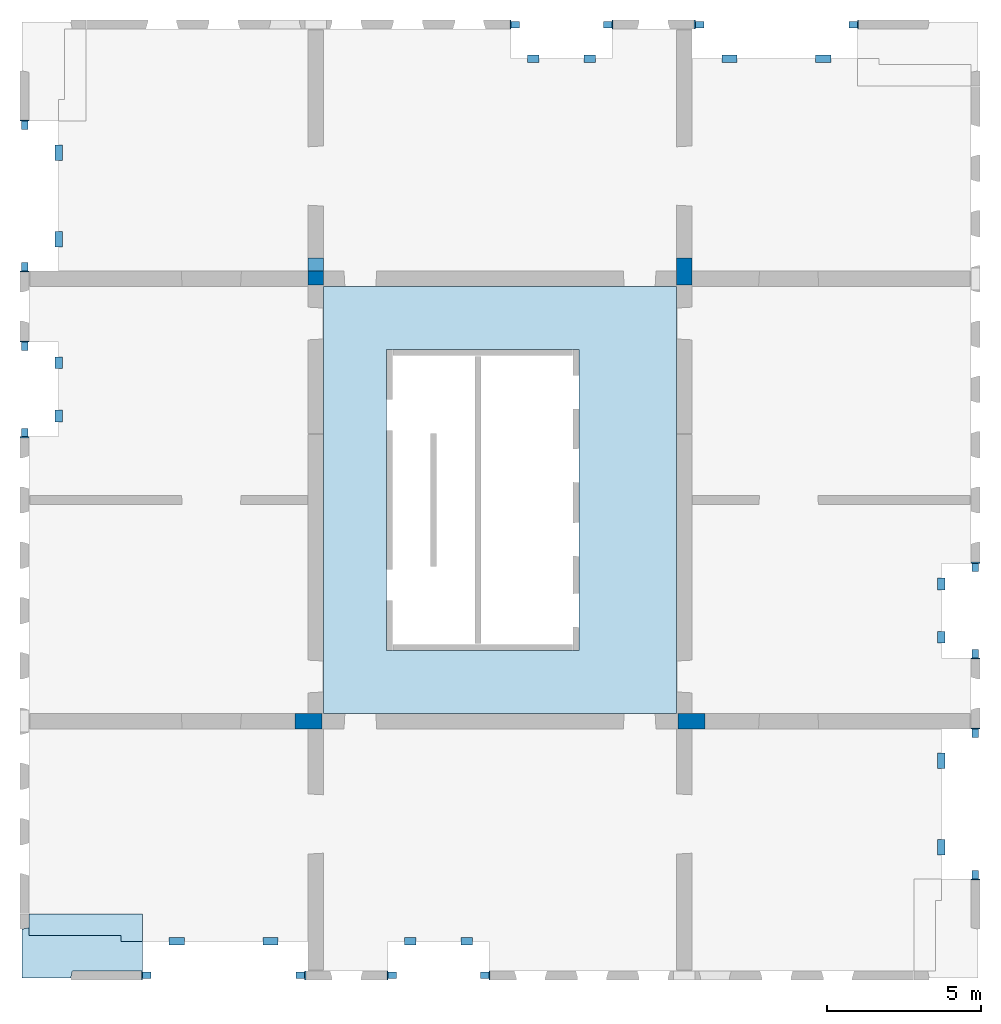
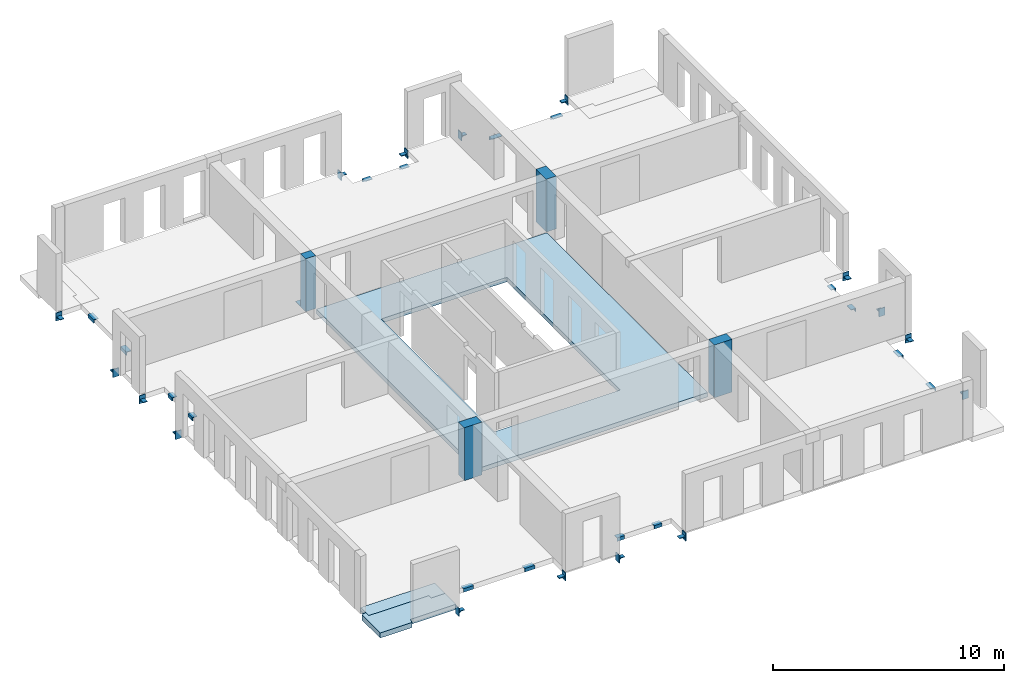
# One storey, part 1 of 4: 32 beams, 4 columns, 3 slabs, 1 opening.
"""IFC2X3 building model written with IfcOpenShell, lengths in millimetres."""

from ifc_helpers import new_model, entity, si_unit, converted_unit, derived_unit, direction, frame, frame_2d, origin, origin_2d_with_axis, place, context, subcontext, project, spatial, polyline, rectangle, outline, extrude, faceted_brep, source, transform, mapped, material, layer, layer_set, layer_usage, type_object, type_shapes, element, save


model = new_model("IFC2X3")

# Units and contexts
model_context = context("Model", 3, precision=0.01, world=origin(), true_north=direction((6.12303176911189e-17, 1.0)))
body_context = subcontext(model_context, "Body", "Model", "MODEL_VIEW")
ifc_project = project(units=[si_unit("LENGTHUNIT", "METRE", prefix="MILLI"), si_unit("AREAUNIT", "SQUARE_METRE"), si_unit("VOLUMEUNIT", "CUBIC_METRE"), converted_unit("PLANEANGLEUNIT", "DEGREE", entity("IfcRatioMeasure", 0.0174532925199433), si_unit("PLANEANGLEUNIT", "RADIAN"), dimensions=[0, 0, 0, 0, 0, 0, 0]), si_unit("MASSUNIT", "GRAM", prefix="KILO"), derived_unit("MASSDENSITYUNIT", [(si_unit("MASSUNIT", "GRAM", prefix="KILO"), 1), (si_unit("LENGTHUNIT", "METRE"), -3)]), si_unit("TIMEUNIT", "SECOND"), si_unit("FREQUENCYUNIT", "HERTZ"), si_unit("THERMODYNAMICTEMPERATUREUNIT", "DEGREE_CELSIUS"), derived_unit("THERMALTRANSMITTANCEUNIT", [(si_unit("MASSUNIT", "GRAM", prefix="KILO"), 1), (si_unit("THERMODYNAMICTEMPERATUREUNIT", "KELVIN"), -1), (si_unit("TIMEUNIT", "SECOND"), -3)]), derived_unit("VOLUMETRICFLOWRATEUNIT", [(si_unit("LENGTHUNIT", "METRE"), 3), (si_unit("TIMEUNIT", "SECOND"), -1)]), si_unit("ELECTRICCURRENTUNIT", "AMPERE"), si_unit("ELECTRICVOLTAGEUNIT", "VOLT"), si_unit("POWERUNIT", "WATT"), si_unit("FORCEUNIT", "NEWTON", prefix="KILO"), si_unit("ILLUMINANCEUNIT", "LUX"), si_unit("LUMINOUSFLUXUNIT", "LUMEN"), si_unit("LUMINOUSINTENSITYUNIT", "CANDELA"), derived_unit("USERDEFINED", [(si_unit("MASSUNIT", "GRAM", prefix="KILO"), -1), (si_unit("LENGTHUNIT", "METRE"), -2), (si_unit("TIMEUNIT", "SECOND"), 3), (si_unit("LUMINOUSFLUXUNIT", "LUMEN"), 1)]), derived_unit("LINEARVELOCITYUNIT", [(si_unit("LENGTHUNIT", "METRE"), 1), (si_unit("TIMEUNIT", "SECOND"), -1)]), si_unit("PRESSUREUNIT", "PASCAL"), derived_unit("USERDEFINED", [(si_unit("LENGTHUNIT", "METRE"), -2), (si_unit("MASSUNIT", "GRAM", prefix="KILO"), 1), (si_unit("TIMEUNIT", "SECOND"), -2)])], contexts=[model_context])

# Site, building, storey
site_placement = place(None, origin())
site = spatial("IfcSite", under=ifc_project, at=site_placement, Name="Default", CompositionType="ELEMENT")
building_placement = place(site_placement, origin())
building = spatial("IfcBuilding", under=site, at=building_placement, Name="niet gebruiken", CompositionType="ELEMENT")
storey_placement = place(building_placement, frame((0.0, 0.0, 51660.0)))
storey = spatial("IfcBuildingStorey", under=building, at=storey_placement, Name="16 zestiende verdieping", CompositionType="ELEMENT", Elevation=51660.0)

# Columns
ifc_material_1 = material(Name="NLRS_f2_beton ihwg")
column_type_1 = type_object("IfcColumnType", Name="500x880", PredefinedType="COLUMN", material=ifc_material_1)
shared_shape_1 = source(origin(), body_context, "Body", "Brep", [
    faceted_brep([(0.00354003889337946, 0.0, 2790.0), (500.003540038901, 0.0, 2790.0), (500.003540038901, 450.0, 2790.0), (0.00354003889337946, 450.0, 2790.0), (500.003540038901, 0.0, 0.0), (0.00354003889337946, 0.0, 0.0), (0.00354003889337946, 880.0, 0.0), (500.003540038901, 880.0, 0.0), (500.003540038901, 880.0, 20.0), (500.003540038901, 450.0, 20.0), (0.00354003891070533, 880.0, 20.0), (0.00354003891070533, 450.0, 20.0), (0.0, 450.0, 20.0), (500.0, 450.0, 20.0)], [[[0, 1, 2, 3]], [[4, 5, 6, 7]], [[1, 4, 7, 8, 9, 2]], [[7, 6, 10, 8]], [[6, 5, 0, 3, 11, 10]], [[1, 0, 5, 4]], [[12, 9, 8, 10]], [[13, 11, 3, 2]]]),
])
type_shapes(column_type_1, [shared_shape_1])
column_1_placement = place(storey_placement, frame((135500.0, 24500.0, -90.0)))
element("IfcColumn", 1, at=column_1_placement, inside=storey, type_object=column_type_1, material=ifc_material_1, Name="NLRS_28.11_SCO_TLB_beton kolom ihwg_gen:500x880", ObjectType="500x880", context=body_context, shape_type="MappedRepresentation", body=[
    mapped(shared_shape_1, transform((0.0, 0.0, 0.0), scale=1.0)),
])
column_type_2 = type_object("IfcColumnType", Name="500x880", PredefinedType="COLUMN", material=ifc_material_1)
shared_shape_2 = source(origin(), body_context, "Body", "SweptSolid", [
    extrude(rectangle(XDim=879.999999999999, YDim=500.000000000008, at=origin_2d_with_axis()), frame((147750.0, 24940.0, 51570.0), z_axis=(0.0, 0.0, 1.0), x_axis=(0.0, -1.0, 0.0)), (0.0, 0.0, 1.0), 2789.99999999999),
])
type_shapes(column_type_2, [shared_shape_2])
column_2_placement = place(storey_placement, frame((0.0, 0.0, -51660.0)))
element("IfcColumn", 2, at=column_2_placement, inside=storey, type_object=column_type_2, material=ifc_material_1, Name="NLRS_28.11_SCO_TLB_beton kolom ihwg_gen:500x880", ObjectType="500x880", context=body_context, shape_type="MappedRepresentation", body=[
    mapped(shared_shape_2, transform((0.0, 0.0, 0.0), scale=1.0)),
])
column_type_3 = type_object("IfcColumnType", Name="500x880", PredefinedType="COLUMN", material=ifc_material_1)
shared_shape_3 = source(origin(), body_context, "Body", "SweptSolid", [
    extrude(rectangle(XDim=500.000000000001, YDim=880.000000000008, at=origin_2d_with_axis()), frame((135510.003540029, 10300.0115507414, 51570.0), z_axis=(0.0, 0.0, 1.0), x_axis=(0.0, -1.0, 0.0)), (0.0, 0.0, 1.0), 2789.99999999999),
])
type_shapes(column_type_3, [shared_shape_3])
column_3_placement = place(storey_placement, frame((0.0, 0.0, -51660.0)))
element("IfcColumn", 3, at=column_3_placement, inside=storey, type_object=column_type_3, material=ifc_material_1, Name="NLRS_28.11_SCO_TLB_beton kolom ihwg_gen:500x880", ObjectType="500x880", context=body_context, shape_type="MappedRepresentation", body=[
    mapped(shared_shape_3, transform((0.0, 0.0, 0.0), scale=1.0)),
])
column_type_4 = type_object("IfcColumnType", Name="500x880", PredefinedType="COLUMN", material=ifc_material_1)
shared_shape_4 = source(origin(), body_context, "Body", "SweptSolid", [
    extrude(rectangle(XDim=500.000000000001, YDim=880.000000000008, at=origin_2d_with_axis()), frame((147990.0, 10300.0, 51570.0), z_axis=(0.0, 0.0, 1.0), x_axis=(0.0, -1.0, 0.0)), (0.0, 0.0, 1.0), 2789.99999999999),
])
type_shapes(column_type_4, [shared_shape_4])
column_4_placement = place(storey_placement, frame((0.0, 0.0, -51660.0)))
element("IfcColumn", 4, at=column_4_placement, inside=storey, type_object=column_type_4, material=ifc_material_1, Name="NLRS_28.11_SCO_TLB_beton kolom ihwg_gen:500x880", ObjectType="500x880", context=body_context, shape_type="MappedRepresentation", body=[
    mapped(shared_shape_4, transform((0.0, 0.0, 0.0), scale=1.0)),
])

# Beams
ifc_material_2 = material(Name="NLRS_h2_staal")
beam_type_1 = type_object("IfcBeamType", Name="NLRS_28.11_SF_WPB_stalen schoen 4_gen", PredefinedType="BEAM", material=ifc_material_2)
shared_shape_5 = source(origin(), body_context, "Body", "SweptSolid", [
    extrude(outline(polyline([(-69.4999999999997, -23.0), (8.49999999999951, -23.0), (30.5, -1.0), (30.5000000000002, 47.0), (-69.4999999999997, -23.0)])), frame((-105.0, -109.499999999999, -58.0), z_axis=(1.0, 0.0, 0.0), x_axis=(0.0, -1.0, 0.0)), (0.0, 0.0, 1.0), 35.0),
    extrude(outline(polyline([(-69.4999999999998, -23.0), (8.49999999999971, -23.0), (30.5, -1.0), (30.5000000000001, 47.0), (-69.4999999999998, -23.0)])), frame((70.0, -109.499999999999, -58.0), z_axis=(1.0, 0.0, 0.0), x_axis=(0.0, -1.0, 0.0)), (0.0, 0.0, 1.0), 35.0),
    extrude(rectangle(XDim=300.0, YDim=34.9999999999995, at=origin_2d_with_axis()), frame((0.0, -157.5, -230.0), z_axis=(0.0, 0.0, 1.0), x_axis=(-1.0, 0.0, 0.0)), (0.0, 0.0, 1.0), 420.0),
    extrude(rectangle(XDim=210.000000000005, YDim=274.999999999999, at=origin_2d_with_axis()), frame((0.0, -2.4999999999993, -35.0), z_axis=(0.0, 0.0, 1.0), x_axis=(-1.0, 0.0, 0.0)), (0.0, 0.0, 1.0), 35.0),
])
type_shapes(beam_type_1, [shared_shape_5])
beam_1_placement = place(storey_placement, frame((157230.0, 12500.0, -310.0)))
element("IfcBeam", 5, at=beam_1_placement, inside=storey, type_object=beam_type_1, material=ifc_material_2, Name="NLRS_28.11_SF_WPB_stalen schoen 4_gen:NLRS_28.11_SF_WPB_stalen schoen 4_gen", ObjectType="NLRS_28.11_SF_WPB_stalen schoen 4_gen", context=body_context, shape_type="MappedRepresentation", body=[
    mapped(shared_shape_5, transform((0.0, 0.0, 0.0), scale=1.0)),
])
for number, where, z_axis, x_axis, name in (
    (6, (126270.0, 22500.0, -310.0), (0.0, 0.0, 1.0), (-1.0, 0.0, 0.0), "NLRS_28.11_SF_WPB_stalen schoen 4_gen:NLRS_28.11_SF_WPB_stalen schoen 4_gen"),
    (7, (157230.0, 15300.0, -310.0), (0.0, 0.0, 1.0), (-1.0, 0.0, 0.0), "NLRS_28.11_SF_WPB_stalen schoen 4_gen:NLRS_28.11_SF_WPB_stalen schoen 4_gen"),
):
    element("IfcBeam", number, at=place(storey_placement, frame(where, z_axis=z_axis, x_axis=x_axis)), inside=storey, type_object=beam_type_1, material=ifc_material_2, Name=name, ObjectType="NLRS_28.11_SF_WPB_stalen schoen 4_gen", context=body_context, shape_type="MappedRepresentation", body=[
        mapped(shared_shape_5, transform((0.0, 0.0, 0.0), scale=1.0)),
    ])
beam_2_placement = place(storey_placement, frame((126270.0, 19700.0, -310.0)))
element("IfcBeam", 8, at=beam_2_placement, inside=storey, type_object=beam_type_1, material=ifc_material_2, Name="NLRS_28.11_SF_WPB_stalen schoen 4_gen:NLRS_28.11_SF_WPB_stalen schoen 4_gen", ObjectType="NLRS_28.11_SF_WPB_stalen schoen 4_gen", context=body_context, shape_type="MappedRepresentation", body=[
    mapped(shared_shape_5, transform((0.0, 0.0, 0.0), scale=1.0)),
])
for number, where, z_axis, x_axis, name in (
    (9, (138250.0, 2020.0, -310.0), (0.0, 0.0, 1.0), (0.0, -1.0, 0.0), "NLRS_28.11_SF_WPB_stalen schoen 4_gen:NLRS_28.11_SF_WPB_stalen schoen 4_gen"),
    (10, (141250.0, 2020.0, -310.0), (0.0, 0.0, 1.0), (0.0, 1.0, 0.0), "NLRS_28.11_SF_WPB_stalen schoen 4_gen:NLRS_28.11_SF_WPB_stalen schoen 4_gen"),
    (11, (145250.0, 32980.0, -310.0), (0.0, 0.0, 1.0), (0.0, 1.0, 0.0), "NLRS_28.11_SF_WPB_stalen schoen 4_gen:NLRS_28.11_SF_WPB_stalen schoen 4_gen"),
    (12, (142250.0, 32980.0, -310.0), (0.0, 0.0, 1.0), (0.0, -1.0, 0.0), "NLRS_28.11_SF_WPB_stalen schoen 4_gen:NLRS_28.11_SF_WPB_stalen schoen 4_gen"),
):
    element("IfcBeam", number, at=place(storey_placement, frame(where, z_axis=z_axis, x_axis=x_axis)), inside=storey, type_object=beam_type_1, material=ifc_material_2, Name=name, ObjectType="NLRS_28.11_SF_WPB_stalen schoen 4_gen", context=body_context, shape_type="MappedRepresentation", body=[
        mapped(shared_shape_5, transform((0.0, 0.0, 0.0), scale=1.0)),
    ])
beam_type_2 = type_object("IfcBeamType", Name="NLRS_28.11_SF_WPB_stalen schoen 3_gen", PredefinedType="BEAM", material=ifc_material_2)
shared_shape_6 = source(origin(), body_context, "Body", "SweptSolid", [
    extrude(outline(polyline([(-69.4999999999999, -23.0), (8.49999999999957, -23.0), (30.5000000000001, -1.0), (30.5000000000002, 47.0), (-69.4999999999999, -23.0)])), frame((-105.0, -109.499999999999, -63.0), z_axis=(1.0, 0.0, 0.0), x_axis=(0.0, -1.0, 0.0)), (0.0, 0.0, 1.0), 40.0),
    extrude(outline(polyline([(-69.4999999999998, -23.0), (8.49999999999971, -23.0), (30.5, -1.0), (30.5000000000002, 47.0), (-69.4999999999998, -23.0)])), frame((65.0, -109.499999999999, -63.0), z_axis=(1.0, 0.0, 0.0), x_axis=(0.0, -1.0, 0.0)), (0.0, 0.0, 1.0), 40.0),
    extrude(rectangle(XDim=300.0, YDim=39.9999999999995, at=origin_2d_with_axis()), frame((0.0, -160.0, -230.0), z_axis=(0.0, 0.0, 1.0), x_axis=(-1.0, 0.0, 0.0)), (0.0, 0.0, 1.0), 420.0),
    extrude(rectangle(XDim=210.000000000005, YDim=274.999999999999, at=origin_2d_with_axis()), frame((0.0, -2.49999999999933, -40.0), z_axis=(0.0, 0.0, 1.0), x_axis=(-1.0, 0.0, 0.0)), (0.0, 0.0, 1.0), 39.9999999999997),
])
type_shapes(beam_type_2, [shared_shape_6])
beam_3_placement = place(storey_placement, frame((157230.0, 9900.0, -310.0), z_axis=(0.0, 0.0, 1.0), x_axis=(-1.0, 0.0, 0.0)))
element("IfcBeam", 13, at=beam_3_placement, inside=storey, type_object=beam_type_2, material=ifc_material_2, Name="NLRS_28.11_SF_WPB_stalen schoen 3_gen:NLRS_28.11_SF_WPB_stalen schoen 3_gen", ObjectType="NLRS_28.11_SF_WPB_stalen schoen 3_gen", context=body_context, shape_type="MappedRepresentation", body=[
    mapped(shared_shape_6, transform((0.0, 0.0, 0.0), scale=1.0)),
])
for number, where, name in (
    (14, (157230.0, 5300.0, -310.0), "NLRS_28.11_SF_WPB_stalen schoen 3_gen:NLRS_28.11_SF_WPB_stalen schoen 3_gen"),
    (15, (126270.0, 25100.0, -310.0), "NLRS_28.11_SF_WPB_stalen schoen 3_gen:NLRS_28.11_SF_WPB_stalen schoen 3_gen"),
):
    element("IfcBeam", number, at=place(storey_placement, frame(where)), inside=storey, type_object=beam_type_2, material=ifc_material_2, Name=name, ObjectType="NLRS_28.11_SF_WPB_stalen schoen 3_gen", context=body_context, shape_type="MappedRepresentation", body=[
        mapped(shared_shape_6, transform((0.0, 0.0, 0.0), scale=1.0)),
    ])
for number, where, z_axis, x_axis, name in (
    (16, (126270.0, 29700.0, -310.0), (0.0, 0.0, 1.0), (-1.0, 0.0, 0.0), "NLRS_28.11_SF_WPB_stalen schoen 3_gen:NLRS_28.11_SF_WPB_stalen schoen 3_gen"),
    (17, (135250.0, 2020.0, -310.0), (0.0, 0.0, 1.0), (0.0, 1.0, 0.0), "NLRS_28.11_SF_WPB_stalen schoen 3_gen:NLRS_28.11_SF_WPB_stalen schoen 3_gen"),
    (18, (130250.0, 2020.0, -310.0), (0.0, 0.0, 1.0), (0.0, -1.0, 0.0), "NLRS_28.11_SF_WPB_stalen schoen 3_gen:NLRS_28.11_SF_WPB_stalen schoen 3_gen"),
    (19, (148250.0, 32980.0, -310.0), (0.0, 0.0, 1.0), (0.0, -1.0, 0.0), "NLRS_28.11_SF_WPB_stalen schoen 3_gen:NLRS_28.11_SF_WPB_stalen schoen 3_gen"),
    (20, (153250.0, 32980.0, -310.0), (0.0, 0.0, 1.0), (0.0, 1.0, 0.0), "NLRS_28.11_SF_WPB_stalen schoen 3_gen:NLRS_28.11_SF_WPB_stalen schoen 3_gen"),
):
    element("IfcBeam", number, at=place(storey_placement, frame(where, z_axis=z_axis, x_axis=x_axis)), inside=storey, type_object=beam_type_2, material=ifc_material_2, Name=name, ObjectType="NLRS_28.11_SF_WPB_stalen schoen 3_gen", context=body_context, shape_type="MappedRepresentation", body=[
        mapped(shared_shape_6, transform((0.0, 0.0, 0.0), scale=1.0)),
    ])
beam_type_3 = type_object("IfcBeamType", Name="NLRS_28.11_SF_WPB_stalen handje 7 lang 375_gen:NLRS_28.11_SF_WPB_stalen handje 7_gen", PredefinedType="BEAM")
beam_4_placement = place(storey_placement, frame((156235.125015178, 9255.24886461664, -93.0), z_axis=(0.0, 0.0, 1.0), x_axis=(0.0, -1.0, 0.0)))
element("IfcBeam", 21, at=beam_4_placement, inside=storey, type_object=beam_type_3, material=ifc_material_2, Name="NLRS_28.11_SF_WPB_stalen handje 7 lang 375_gen:NLRS_28.11_SF_WPB_stalen handje 7_gen", ObjectType="NLRS_28.11_SF_WPB_stalen handje 7 lang 375_gen:NLRS_28.11_SF_WPB_stalen handje 7_gen", context=body_context, shape_type="SweptSolid", body=[
    extrude(outline(polyline([(-70.6666666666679, -153.33333333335), (-40.6666666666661, -153.33333333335), (-40.6666666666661, 61.6666666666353), (111.333333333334, 61.6666666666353), (111.333333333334, 91.6666666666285), (-70.6666666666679, 91.6666666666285), (-70.6666666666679, -153.33333333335)])), frame((0.0, -91.6666666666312, -70.6666666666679), z_axis=(1.0, 0.0, 0.0), x_axis=(0.0, 0.0, -1.0)), (0.0, 0.0, 1.0), 500.000000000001),
])
beam_5_placement = place(storey_placement, frame((156235.125015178, 6445.2458243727, -93.0), z_axis=(0.0, 0.0, 1.0), x_axis=(0.0, -1.0, 0.0)))
element("IfcBeam", 22, at=beam_5_placement, inside=storey, type_object=beam_type_3, material=ifc_material_2, Name="NLRS_28.11_SF_WPB_stalen handje 7 lang 375_gen:NLRS_28.11_SF_WPB_stalen handje 7_gen", ObjectType="NLRS_28.11_SF_WPB_stalen handje 7 lang 375_gen:NLRS_28.11_SF_WPB_stalen handje 7_gen", context=body_context, shape_type="SweptSolid", body=[
    extrude(outline(polyline([(-70.6666666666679, -153.33333333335), (-40.6666666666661, -153.33333333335), (-40.6666666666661, 61.6666666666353), (111.333333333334, 61.6666666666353), (111.333333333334, 91.6666666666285), (-70.6666666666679, 91.6666666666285), (-70.6666666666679, -153.33333333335)])), frame((0.0, -91.6666666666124, -70.6666666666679), z_axis=(1.0, 0.0, 0.0), x_axis=(0.0, 0.0, -1.0)), (0.0, 0.0, 1.0), 500.000000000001),
])
beam_6_placement = place(storey_placement, frame((127264.874984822, 25744.7511353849, -93.0), z_axis=(0.0, 0.0, 1.0), x_axis=(0.0, 1.0, 0.0)))
element("IfcBeam", 23, at=beam_6_placement, inside=storey, type_object=beam_type_3, material=ifc_material_2, Name="NLRS_28.11_SF_WPB_stalen handje 7 lang 375_gen:NLRS_28.11_SF_WPB_stalen handje 7_gen", ObjectType="NLRS_28.11_SF_WPB_stalen handje 7 lang 375_gen:NLRS_28.11_SF_WPB_stalen handje 7_gen", context=body_context, shape_type="SweptSolid", body=[
    extrude(outline(polyline([(-70.6666666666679, -153.333333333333), (-40.6666666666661, -153.333333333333), (-40.6666666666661, 61.6666666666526), (111.333333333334, 61.6666666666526), (111.333333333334, 91.6666666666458), (-70.6666666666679, 91.6666666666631), (-70.6666666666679, -153.333333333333)])), frame((0.0, -91.6666666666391, -70.6666666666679), z_axis=(1.0, 0.0, 0.0), x_axis=(0.0, 0.0, -1.0)), (0.0, 0.0, 1.0), 500.0),
])
beam_7_placement = place(storey_placement, frame((127264.874984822, 28554.7541756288, -93.0), z_axis=(0.0, 0.0, 1.0), x_axis=(0.0, 1.0, 0.0)))
element("IfcBeam", 24, at=beam_7_placement, inside=storey, type_object=beam_type_3, material=ifc_material_2, Name="NLRS_28.11_SF_WPB_stalen handje 7 lang 375_gen:NLRS_28.11_SF_WPB_stalen handje 7_gen", ObjectType="NLRS_28.11_SF_WPB_stalen handje 7 lang 375_gen:NLRS_28.11_SF_WPB_stalen handje 7_gen", context=body_context, shape_type="SweptSolid", body=[
    extrude(outline(polyline([(-70.6666666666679, -153.333333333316), (-40.6666666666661, -153.333333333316), (-40.6666666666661, 61.66666666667), (111.333333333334, 61.66666666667), (111.333333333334, 91.6666666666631), (-70.6666666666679, 91.6666666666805), (-70.6666666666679, -153.333333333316)])), frame((0.0, -91.6666666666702, -70.6666666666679), z_axis=(1.0, 0.0, 0.0), x_axis=(0.0, 0.0, -1.0)), (0.0, 0.0, 1.0), 500.0),
])
for number, where, z_axis, x_axis, name in (
    (25, (140862.631597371, 3015.23611279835, -93.0), (0.0, 0.0, 1.0), (-1.0, 0.0, 0.0), "NLRS_28.11_SF_WPB_stalen handje 7 lang 375_gen:NLRS_28.11_SF_WPB_stalen handje 7_gen"),
    (26, (139012.628555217, 3015.2361127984, -93.0), (0.0, 0.0, 1.0), (-1.0, 0.0, 0.0), "NLRS_28.11_SF_WPB_stalen handje 7 lang 375_gen:NLRS_28.11_SF_WPB_stalen handje 7_gen"),
):
    element("IfcBeam", number, at=place(storey_placement, frame(where, z_axis=z_axis, x_axis=x_axis)), inside=storey, type_object=beam_type_3, material=ifc_material_2, Name=name, ObjectType="NLRS_28.11_SF_WPB_stalen handje 7 lang 375_gen:NLRS_28.11_SF_WPB_stalen handje 7_gen", context=body_context, shape_type="SweptSolid", body=[
        extrude(outline(polyline([(-70.6666666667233, -153.333333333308), (-40.6666666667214, -153.333333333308), (-40.6666666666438, 61.6666666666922), (111.333333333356, 61.6666666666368), (111.333333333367, 91.6666666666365), (-70.6666666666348, 91.6666666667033), (-70.6666666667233, -153.333333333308)])), frame((0.0, -91.6666666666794, -70.6666666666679), z_axis=(1.0, 0.0, 0.0), x_axis=(0.0, 0.0, -1.0)), (0.0, 0.0, 1.0), 375.000000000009),
    ])
for number, where, z_axis, x_axis, name in (
    (27, (134525.131597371, 3015.23611279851, -93.0), (0.0, 0.0, 1.0), (-1.0, 0.0, 0.0), "NLRS_28.11_SF_WPB_stalen handje 7 lang 375_gen:NLRS_28.11_SF_WPB_stalen handje 7_gen"),
    (28, (131475.128555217, 3015.23611279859, -93.0), (0.0, 0.0, 1.0), (-1.0, 0.0, 0.0), "NLRS_28.11_SF_WPB_stalen handje 7 lang 375_gen:NLRS_28.11_SF_WPB_stalen handje 7_gen"),
):
    element("IfcBeam", number, at=place(storey_placement, frame(where, z_axis=z_axis, x_axis=x_axis)), inside=storey, type_object=beam_type_3, material=ifc_material_2, Name=name, ObjectType="NLRS_28.11_SF_WPB_stalen handje 7 lang 375_gen:NLRS_28.11_SF_WPB_stalen handje 7_gen", context=body_context, shape_type="SweptSolid", body=[
        extrude(outline(polyline([(-70.6666666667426, -153.333333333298), (-40.6666666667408, -153.333333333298), (-40.666666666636, 61.6666666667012), (111.333333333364, 61.6666666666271), (111.333333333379, 91.6666666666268), (-70.6666666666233, 91.666666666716), (-70.6666666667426, -153.333333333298)])), frame((0.0, -91.6666666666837, -70.6666666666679), z_axis=(1.0, 0.0, 0.0), x_axis=(0.0, 0.0, -1.0)), (0.0, 0.0, 1.0), 500.000000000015),
    ])
for number, where, name in (
    (29, (142637.368402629, 31984.7638872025, -93.0), "NLRS_28.11_SF_WPB_stalen handje 7 lang 375_gen:NLRS_28.11_SF_WPB_stalen handje 7_gen"),
    (30, (144487.371444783, 31984.7638872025, -93.0), "NLRS_28.11_SF_WPB_stalen handje 7 lang 375_gen:NLRS_28.11_SF_WPB_stalen handje 7_gen"),
):
    element("IfcBeam", number, at=place(storey_placement, frame(where)), inside=storey, type_object=beam_type_3, material=ifc_material_2, Name=name, ObjectType="NLRS_28.11_SF_WPB_stalen handje 7 lang 375_gen:NLRS_28.11_SF_WPB_stalen handje 7_gen", context=body_context, shape_type="SweptSolid", body=[
        extrude(outline(polyline([(-70.6666666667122, -153.333333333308), (-40.6666666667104, -153.333333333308), (-40.6666666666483, 61.6666666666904), (111.333333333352, 61.6666666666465), (111.33333333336, 91.6666666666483), (-70.6666666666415, 91.6666666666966), (-70.6666666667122, -153.333333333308)])), frame((0.0, -91.6666666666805, -70.6666666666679), z_axis=(1.0, 0.0, 0.0), x_axis=(0.0, 0.0, -1.0)), (0.0, 0.0, 1.0), 375.000000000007),
    ])
beam_8_placement = place(storey_placement, frame((148974.868402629, 31984.7638872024, -93.0)))
element("IfcBeam", 31, at=beam_8_placement, inside=storey, type_object=beam_type_3, material=ifc_material_2, Name="NLRS_28.11_SF_WPB_stalen handje 7 lang 375_gen:NLRS_28.11_SF_WPB_stalen handje 7_gen", ObjectType="NLRS_28.11_SF_WPB_stalen handje 7 lang 375_gen:NLRS_28.11_SF_WPB_stalen handje 7_gen", context=body_context, shape_type="SweptSolid", body=[
    extrude(outline(polyline([(-70.6666666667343, -153.333333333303), (-40.6666666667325, -153.333333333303), (-40.6666666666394, 61.6666666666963), (111.333333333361, 61.6666666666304), (111.333333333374, 91.6666666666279), (-70.6666666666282, 91.6666666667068), (-70.6666666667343, -153.333333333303)])), frame((0.0, -91.6666666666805, -70.6666666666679), z_axis=(1.0, 0.0, 0.0), x_axis=(0.0, 0.0, -1.0)), (0.0, 0.0, 1.0), 500.000000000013),
])
beam_9_placement = place(storey_placement, frame((152024.871444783, 31984.7638872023, -93.0)))
element("IfcBeam", 32, at=beam_9_placement, inside=storey, type_object=beam_type_3, material=ifc_material_2, Name="NLRS_28.11_SF_WPB_stalen handje 7 lang 375_gen:NLRS_28.11_SF_WPB_stalen handje 7_gen", ObjectType="NLRS_28.11_SF_WPB_stalen handje 7 lang 375_gen:NLRS_28.11_SF_WPB_stalen handje 7_gen", context=body_context, shape_type="SweptSolid", body=[
    extrude(outline(polyline([(-70.6666666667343, -153.333333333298), (-40.6666666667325, -153.333333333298), (-40.6666666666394, 61.6666666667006), (111.333333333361, 61.6666666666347), (111.333333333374, 91.6666666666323), (-70.6666666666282, 91.6666666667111), (-70.6666666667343, -153.333333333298)])), frame((0.0, -91.6666666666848, -70.6666666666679), z_axis=(1.0, 0.0, 0.0), x_axis=(0.0, 0.0, -1.0)), (0.0, 0.0, 1.0), 500.000000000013),
])
beam_10_placement = place(storey_placement, frame((156235.0, 14952.5097115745, -93.0), z_axis=(0.0, 0.0, 1.0), x_axis=(0.0, -1.0, 0.0)))
element("IfcBeam", 33, at=beam_10_placement, inside=storey, type_object=beam_type_3, material=ifc_material_2, Name="NLRS_28.11_SF_WPB_stalen handje 7 lang 375_gen:NLRS_28.11_SF_WPB_stalen handje 7_gen", ObjectType="NLRS_28.11_SF_WPB_stalen handje 7 lang 375_gen:NLRS_28.11_SF_WPB_stalen handje 7_gen", context=body_context, shape_type="SweptSolid", body=[
    extrude(outline(polyline([(-70.6666666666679, -153.333333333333), (-40.6666666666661, -153.333333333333), (-40.6666666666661, 61.66666666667), (111.333333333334, 61.66666666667), (111.333333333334, 91.6666666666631), (-70.6666666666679, 91.6666666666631), (-70.6666666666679, -153.333333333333)])), frame((0.0, -91.6666666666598, -70.6666666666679), z_axis=(1.0, 0.0, 0.0), x_axis=(0.0, 0.0, -1.0)), (0.0, 0.0, 1.0), 375.000000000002),
])
beam_11_placement = place(storey_placement, frame((156235.0, 13222.5097115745, -93.0), z_axis=(0.0, 0.0, 1.0), x_axis=(0.0, -1.0, 0.0)))
element("IfcBeam", 34, at=beam_11_placement, inside=storey, type_object=beam_type_3, material=ifc_material_2, Name="NLRS_28.11_SF_WPB_stalen handje 7 lang 375_gen:NLRS_28.11_SF_WPB_stalen handje 7_gen", ObjectType="NLRS_28.11_SF_WPB_stalen handje 7 lang 375_gen:NLRS_28.11_SF_WPB_stalen handje 7_gen", context=body_context, shape_type="SweptSolid", body=[
    extrude(outline(polyline([(-70.6666666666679, -153.333333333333), (-40.6666666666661, -153.333333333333), (-40.6666666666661, 61.66666666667), (111.333333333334, 61.66666666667), (111.333333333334, 91.6666666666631), (-70.6666666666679, 91.6666666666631), (-70.6666666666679, -153.333333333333)])), frame((0.0, -91.6666666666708, -70.6666666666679), z_axis=(1.0, 0.0, 0.0), x_axis=(0.0, 0.0, -1.0)), (0.0, 0.0, 1.0), 375.000000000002),
])
beam_12_placement = place(storey_placement, frame((127265.0, 20047.4902884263, -93.0), z_axis=(0.0, 0.0, 1.0), x_axis=(0.0, 1.0, 0.0)))
element("IfcBeam", 35, at=beam_12_placement, inside=storey, type_object=beam_type_3, material=ifc_material_2, Name="NLRS_28.11_SF_WPB_stalen handje 7 lang 375_gen:NLRS_28.11_SF_WPB_stalen handje 7_gen", ObjectType="NLRS_28.11_SF_WPB_stalen handje 7 lang 375_gen:NLRS_28.11_SF_WPB_stalen handje 7_gen", context=body_context, shape_type="SweptSolid", body=[
    extrude(outline(polyline([(-70.6666666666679, -153.333333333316), (-40.6666666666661, -153.333333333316), (-40.6666666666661, 61.6666666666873), (111.333333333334, 61.66666666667), (111.333333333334, 91.6666666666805), (-70.6666666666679, 91.6666666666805), (-70.6666666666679, -153.333333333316)])), frame((0.0, -91.6666666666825, -70.6666666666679), z_axis=(1.0, 0.0, 0.0), x_axis=(0.0, 0.0, -1.0)), (0.0, 0.0, 1.0), 375.000000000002),
])
beam_13_placement = place(storey_placement, frame((127265.0, 21777.4902884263, -93.0), z_axis=(0.0, 0.0, 1.0), x_axis=(0.0, 1.0, 0.0)))
element("IfcBeam", 36, at=beam_13_placement, inside=storey, type_object=beam_type_3, material=ifc_material_2, Name="NLRS_28.11_SF_WPB_stalen handje 7 lang 375_gen:NLRS_28.11_SF_WPB_stalen handje 7_gen", ObjectType="NLRS_28.11_SF_WPB_stalen handje 7 lang 375_gen:NLRS_28.11_SF_WPB_stalen handje 7_gen", context=body_context, shape_type="SweptSolid", body=[
    extrude(outline(polyline([(-70.6666666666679, -153.33333333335), (-40.6666666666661, -153.33333333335), (-40.6666666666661, 61.6666666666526), (111.333333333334, 61.6666666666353), (111.333333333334, 91.6666666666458), (-70.6666666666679, 91.6666666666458), (-70.6666666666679, -153.33333333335)])), frame((0.0, -91.6666666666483, -70.6666666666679), z_axis=(1.0, 0.0, 0.0), x_axis=(0.0, 0.0, -1.0)), (0.0, 0.0, 1.0), 375.000000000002),
])

# Slabs
ifc_material_3 = material(Name="NLRS_f2_beton prefab")
ifc_layer_1 = layer(ifc_material_3, 270.0)
ifc_layer_set_1 = layer_set([ifc_layer_1], Name="Floor:NLRS_23.22_FL_beton prefab d=270 3D element_gen")
ifc_layer_usage_1 = layer_usage(ifc_layer_set_1, "AXIS3", "POSITIVE", 0.0)
slab_1_placement = place(storey_placement, origin())
element("IfcSlab", 37, at=slab_1_placement, inside=storey, material=ifc_layer_usage_1, Name="Floor:NLRS_23.22_FL_beton prefab d=270 3D element_gen", ObjectType="Floor:NLRS_23.22_FL_beton prefab d=270 3D element_gen", PredefinedType="LANDING", context=body_context, shape_type="SweptSolid", body=[
    extrude(outline(polyline([(-982.471394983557, -1442.47139498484), (607.67594043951, -1442.47139498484), (655.152429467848, -1209.47139498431), (1100.52860501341, -1209.47139498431), (1100.52860501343, 2480.5286050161), (-749.471394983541, 2480.5286050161), (-749.471394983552, 195.15242946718), (-982.47139498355, 147.675940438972), (-982.471394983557, -1442.47139498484)])), frame((127629.471394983, 2919.47139499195, -90.0), z_axis=(0.0, 0.0, -1.0), x_axis=(0.0, 1.0, 0.0)), (0.0, 0.0, 1.0), 269.999999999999),
])
ifc_layer_2 = layer(ifc_material_1, 170.0)
ifc_layer_set_2 = layer_set([ifc_layer_2], Name="Floor:NLRS_23.21_FL_beton ihwg d=170_gen")
ifc_layer_usage_2 = layer_usage(ifc_layer_set_2, "AXIS3", "POSITIVE", 0.0)
slab_2_placement = place(storey_placement, origin())
element("IfcSlab", 38, at=slab_2_placement, inside=storey, material=ifc_layer_usage_2, Name="Floor:NLRS_23.21_FL_beton ihwg d=170_gen", ObjectType="Floor:NLRS_23.21_FL_beton ihwg d=170_gen", PredefinedType="FLOOR", context=body_context, shape_type="SweptSolid", body=[
    extrude(outline(polyline([(-166.666666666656, -2226.66666666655), (533.333333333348, -2226.66666666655), (533.333333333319, 1463.33333333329), (-366.666666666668, 1463.33333333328), (-366.666666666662, 763.333333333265), (-166.666666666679, 763.333333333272), (-166.666666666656, -2226.66666666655)])), frame((128646.666666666, 3486.66666667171, -90.0), z_axis=(0.0, 0.0, -1.0), x_axis=(0.0, 1.0, 0.0)), (0.0, 0.0, 1.0), 169.999999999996),
])

# Slab, opening
ifc_layer_3 = layer(ifc_material_1, 230.0)
ifc_layer_set_3 = layer_set([ifc_layer_3], Name="Floor:NLRS_23.21_FL_vloer=230_gen")
ifc_layer_usage_3 = layer_usage(ifc_layer_set_3, "AXIS3", "POSITIVE", 0.0)
slab_3_placement = place(storey_placement, frame((136000.0, 10549.7638872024, -320.0)))
slab_3 = element("IfcSlab", 39, at=slab_3_placement, inside=storey, material=ifc_layer_usage_3, Name="Floor:NLRS_23.21_FL_vloer=230_gen", ObjectType="Floor:NLRS_23.21_FL_vloer=230_gen", PredefinedType="FLOOR", context=body_context, shape_type="SweptSolid", body=[
    extrude(rectangle(XDim=13900.2361127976, YDim=11500.0, at=frame_2d((0.0, 0.0), x_axis=(0.0, -1.0))), frame((5750.0, 6950.11805639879, 230.0), z_axis=(0.0, 0.0, -1.0), x_axis=(-1.0, 0.0, 0.0)), (0.0, 0.0, 1.0), 230.0),
])
opening_placement = place(slab_3_placement, frame((5190.0, 6950.23611279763, 230.0)))
element("IfcOpeningElement", 40, at=opening_placement, cuts=slab_3, Name="Floor:NLRS_23.21_FL_vloer=230_gen:2", ObjectType="Opening", context=body_context, shape_type="SweptSolid", body=[
    extrude(rectangle(XDim=9800.0, YDim=6279.99999999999, at=origin_2d_with_axis()), frame((0.0, 0.0, 0.0), z_axis=(0.0, 0.0, -1.0), x_axis=(0.0, -1.0, 0.0)), (0.0, 0.0, 1.0), 230.0),
])

save(model, "model.ifc")
